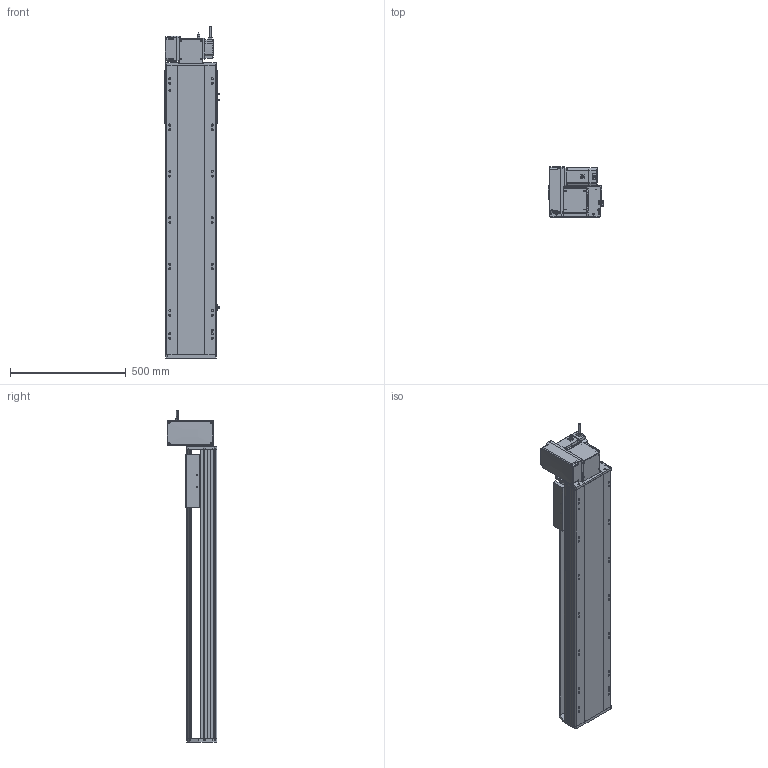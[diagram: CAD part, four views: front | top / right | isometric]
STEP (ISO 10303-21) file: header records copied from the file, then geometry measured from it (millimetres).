
FILE_DESCRIPTION (( 'STEP AP214' ), '1' );
FILE_NAME ('RTB22S-XX-900-LW-M75-C4.STEP', '2025-12-12T05:54:24', ( '' ), ( '' ), 'SwSTEP 2.0', 'SolidWorks 2018', '' );
FILE_SCHEMA (( 'AUTOMOTIVE_DESIGN' ));
Length unit declared in the file: millimetre
Products named in the file (14): 750W萇儂^RTB22S-XX-XX-LW-M75-C4; RTB22S-GY-005P^RTB22S-LW-々湍釱蚾饜_RTB22S-XX-XX-LW-M75-C4; RTB22S-XX-900-LW-M75-C4; RTB22S-GY-014--々湍釱^RTB22S-LW-々湍釱蚾饜_RTB22S-XX-XX-LW-M75-C4; RTB22S-L-011菁釱^RTB22S-XX-XX-LW-M75-C4; RTB22S-LW-々湍釱蚾饜^RTB22S-XX-XX-LW-M75-C4; OMRON EE-SX672 传感器^RTB22S-XX-XX-LW-M75-C4; RTB22S-GY-008-M75--萇儂啣^RTB22S-LW-々湍釱蚾饜_RTB22S-XX-XX-LW-M75-C4; RTH22-GY-013外置感应片^RTB22S-XX-XX-LW-M75-C4; RTB22S-GY-017P^RTB22S-LW-々湍釱蚾饜_RTB22S-XX-XX-LW-M75-C4; RTB22S-L-004賑釱^RTB22S-XX-XX-LW-M75-C4; RTB22S-GY-001耜裔^RTB22S-XX-XX-LW-M75-C4; RTB22S-GY-007奻裔^RTB22S-XX-XX-LW-M75-C4; RTB22S-GY-018P^RTB22S-LW-々湍釱蚾饜_RTB22S-XX-XX-LW-M75-C4
Assembly tree (16 placements, depth 3):
  RTB22S-XX-900-LW-M75-C4
    RTB22S-L-011菁釱^RTB22S-XX-XX-LW-M75-C4
    RTB22S-GY-001耜裔^RTB22S-XX-XX-LW-M75-C4
    750W萇儂^RTB22S-XX-XX-LW-M75-C4
    RTB22S-GY-007奻裔^RTB22S-XX-XX-LW-M75-C4
    RTB22S-L-004賑釱^RTB22S-XX-XX-LW-M75-C4
    RTH22-GY-013外置感应片^RTB22S-XX-XX-LW-M75-C4
    OMRON EE-SX672 传感器^RTB22S-XX-XX-LW-M75-C4  x3
    RTB22S-LW-々湍釱蚾饜^RTB22S-XX-XX-LW-M75-C4
      RTB22S-GY-014--々湍釱^RTB22S-LW-々湍釱蚾饜_RTB22S-XX-XX-LW-M75-C4
      RTB22S-GY-017P^RTB22S-LW-々湍釱蚾饜_RTB22S-XX-XX-LW-M75-C4  x2
      RTB22S-GY-005P^RTB22S-LW-々湍釱蚾饜_RTB22S-XX-XX-LW-M75-C4
      RTB22S-GY-008-M75--萇儂啣^RTB22S-LW-々湍釱蚾饜_RTB22S-XX-XX-LW-M75-C4
      RTB22S-GY-018P^RTB22S-LW-々湍釱蚾饜_RTB22S-XX-XX-LW-M75-C4
Bounding box: 238.5 x 215.5 x 1432.2 mm (x, y, z)
Volume: 20122951.7 mm3; surface area: 2100201.6 mm2
Topology: 15 solids, 15 shells, 1965 faces, 5336 edges, 3422 vertices
Faces by surface type: plane 913, cylinder 610, bspline 296, cone 134, sphere 8, torus 4
Entity records: 52110 total; most frequent: CARTESIAN_POINT 15024, ORIENTED_EDGE 7468, DIRECTION 7168, EDGE_CURVE 3734, AXIS2_PLACEMENT_3D 2522, VERTEX_POINT 2426, LINE 2124, VECTOR 2124
